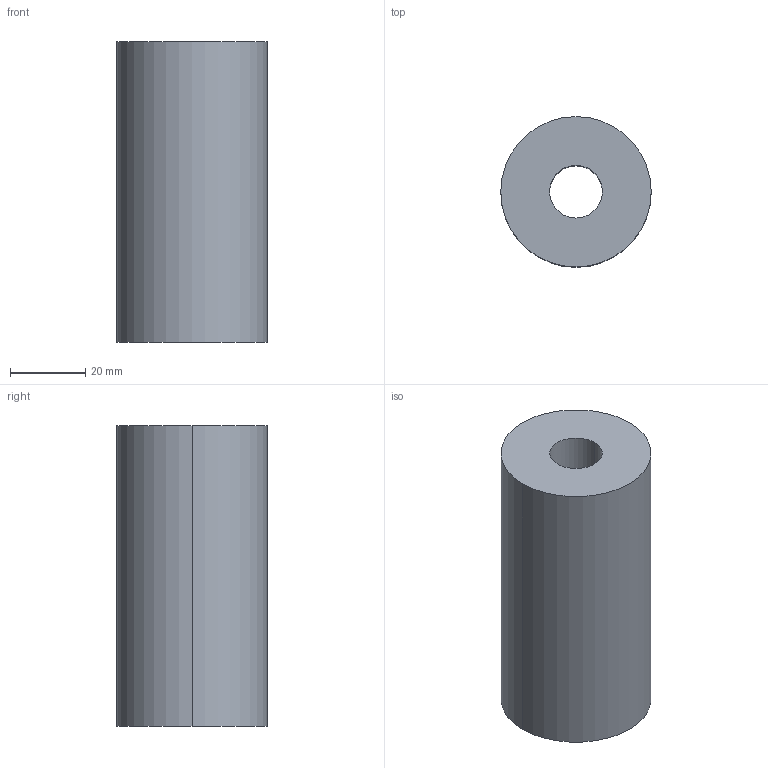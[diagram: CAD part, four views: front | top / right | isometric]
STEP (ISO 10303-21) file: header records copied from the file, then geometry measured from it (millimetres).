
FILE_DESCRIPTION(/* description */ (''),/* implementation_level */ '2;1');
FILE_NAME(/* name */ '3d_e40-80_03711_r00.stp',/* time_stamp */ '2011-01-10T14:15:49+09:00',/* author */ ('MISUMI'),/* organization */ (''),/* preprocessor_version */ 'ST-DEVELOPER v11',/* originating_system */ 'UGS - NX 5.0',/* authorisation */ '');
FILE_SCHEMA (('CONFIG_CONTROL_DESIGN'));
Length unit declared in the file: millimetre
Products named in the file (1): 3d_e40-80_03711_r00
Bounding box: 40 x 40 x 80 mm (x, y, z)
Volume: 88215.9 mm3; surface area: 15777.1 mm2
Topology: 1 solids, 1 shells, 6 faces, 12 edges, 8 vertices
Faces by surface type: cylinder 4, plane 2
Entity records: 254 total; most frequent: DIRECTION 34, CARTESIAN_POINT 27, ORIENTED_EDGE 24, AXIS2_PLACEMENT_3D 15, EDGE_CURVE 12, EDGE_LOOP 8, VERTEX_POINT 8, CIRCLE 8
